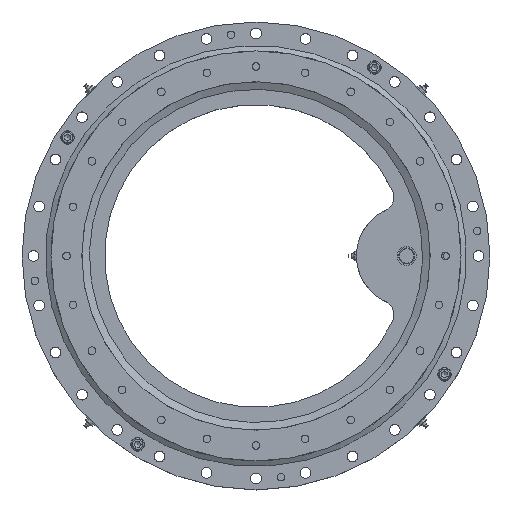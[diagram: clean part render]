
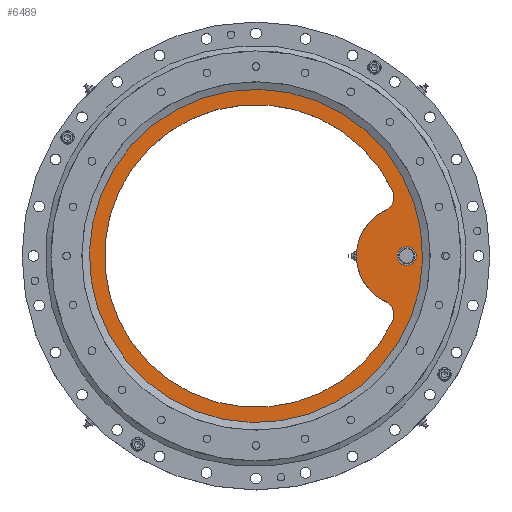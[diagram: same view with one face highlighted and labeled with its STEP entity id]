
A CAD part, top view. The second image highlights one B-rep face of the part: STEP entity #6489.
In plain terms, the highlighted planar face has unit normal (0, 0, 1).
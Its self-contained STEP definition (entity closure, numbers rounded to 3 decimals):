
#55=PLANE('',#7035);
#300=FACE_BOUND('',#927,.T.);
#301=FACE_BOUND('',#928,.T.);
#512=FACE_OUTER_BOUND('',#926,.T.);
#926=EDGE_LOOP('',(#4687));
#927=EDGE_LOOP('',(#4688));
#928=EDGE_LOOP('',(#4689,#4690,#4691,#4692));
#2382=CIRCLE('',#6889,199.);
#2386=CIRCLE('',#6894,66.);
#2478=CIRCLE('',#7029,20.);
#2481=CIRCLE('',#7034,20.);
#2482=CIRCLE('',#7036,221.);
#2483=CIRCLE('',#7037,10.5);
#2812=VERTEX_POINT('',#9681);
#2813=VERTEX_POINT('',#9682);
#2820=VERTEX_POINT('',#9697);
#2821=VERTEX_POINT('',#9699);
#2914=VERTEX_POINT('',#10160);
#2915=VERTEX_POINT('',#10162);
#3460=EDGE_CURVE('',#2812,#2813,#2382,.T.);
#3468=EDGE_CURVE('',#2820,#2821,#2386,.T.);
#3603=EDGE_CURVE('',#2820,#2813,#2478,.T.);
#3606=EDGE_CURVE('',#2812,#2821,#2481,.T.);
#3607=EDGE_CURVE('',#2914,#2914,#2482,.T.);
#3608=EDGE_CURVE('',#2915,#2915,#2483,.T.);
#4687=ORIENTED_EDGE('',*,*,#3607,.T.);
#4688=ORIENTED_EDGE('',*,*,#3608,.T.);
#4689=ORIENTED_EDGE('',*,*,#3460,.F.);
#4690=ORIENTED_EDGE('',*,*,#3606,.T.);
#4691=ORIENTED_EDGE('',*,*,#3468,.F.);
#4692=ORIENTED_EDGE('',*,*,#3603,.T.);
#6489=ADVANCED_FACE('',(#512,#300,#301),#55,.T.);
#6889=AXIS2_PLACEMENT_3D('',#9683,#7652,#7653);
#6894=AXIS2_PLACEMENT_3D('',#9700,#7666,#7667);
#7029=AXIS2_PLACEMENT_3D('',#10153,#7977,#7978);
#7034=AXIS2_PLACEMENT_3D('',#10158,#7987,#7988);
#7035=AXIS2_PLACEMENT_3D('',#10159,#7989,#7990);
#7036=AXIS2_PLACEMENT_3D('',#10161,#7991,#7992);
#7037=AXIS2_PLACEMENT_3D('',#10163,#7993,#7994);
#7652=DIRECTION('center_axis',(0.,0.,1.));
#7653=DIRECTION('ref_axis',(1.,0.,0.));
#7666=DIRECTION('center_axis',(0.,0.,-1.));
#7667=DIRECTION('ref_axis',(1.,0.,0.));
#7977=DIRECTION('center_axis',(0.,0.,-1.));
#7978=DIRECTION('ref_axis',(1.,0.,0.));
#7987=DIRECTION('center_axis',(0.,0.,-1.));
#7988=DIRECTION('ref_axis',(1.,0.,0.));
#7989=DIRECTION('center_axis',(0.,0.,1.));
#7990=DIRECTION('ref_axis',(1.,0.,0.));
#7991=DIRECTION('center_axis',(0.,0.,1.));
#7992=DIRECTION('ref_axis',(1.,0.,0.));
#7993=DIRECTION('center_axis',(0.,0.,-1.));
#7994=DIRECTION('ref_axis',(-1.,0.,0.));
#9681=CARTESIAN_POINT('',(204.683,88.109,457.578));
#9682=CARTESIAN_POINT('',(204.683,-84.755,457.578));
#9683=CARTESIAN_POINT('Origin',(25.433,1.677,457.578));
#9697=CARTESIAN_POINT('',(195.218,-57.988,457.578));
#9699=CARTESIAN_POINT('',(195.218,61.342,457.578));
#9700=CARTESIAN_POINT('Origin',(223.433,1.677,457.578));
#10153=CARTESIAN_POINT('Origin',(186.668,-76.068,457.578));
#10158=CARTESIAN_POINT('Origin',(186.668,79.422,457.578));
#10159=CARTESIAN_POINT('Origin',(25.433,1.677,457.578));
#10160=CARTESIAN_POINT('',(-195.567,1.677,457.578));
#10161=CARTESIAN_POINT('Origin',(25.433,1.677,457.578));
#10162=CARTESIAN_POINT('',(233.933,1.677,457.578));
#10163=CARTESIAN_POINT('Origin',(223.433,1.677,457.578));
